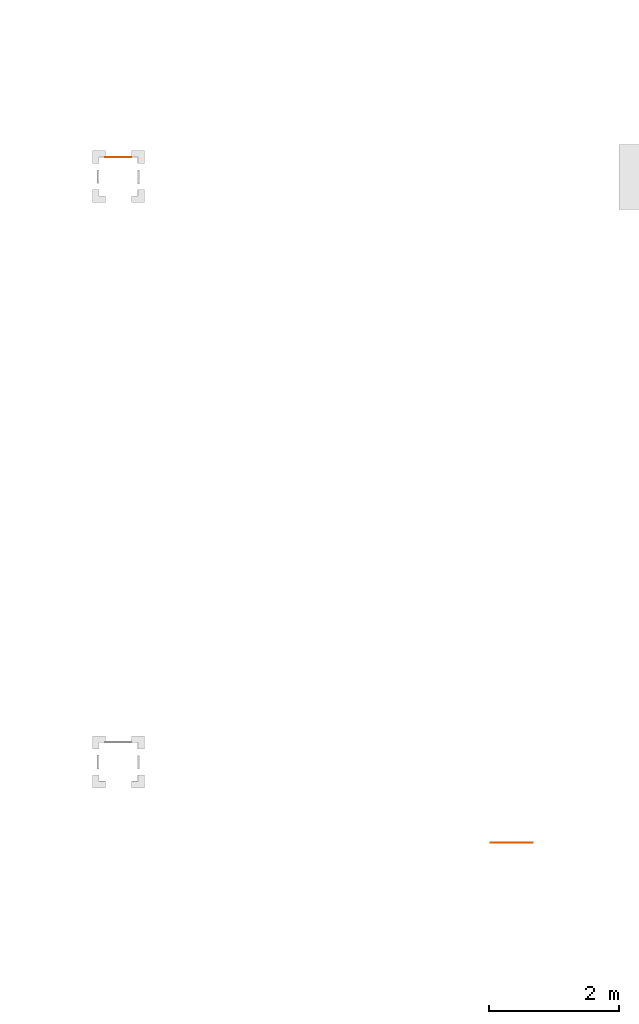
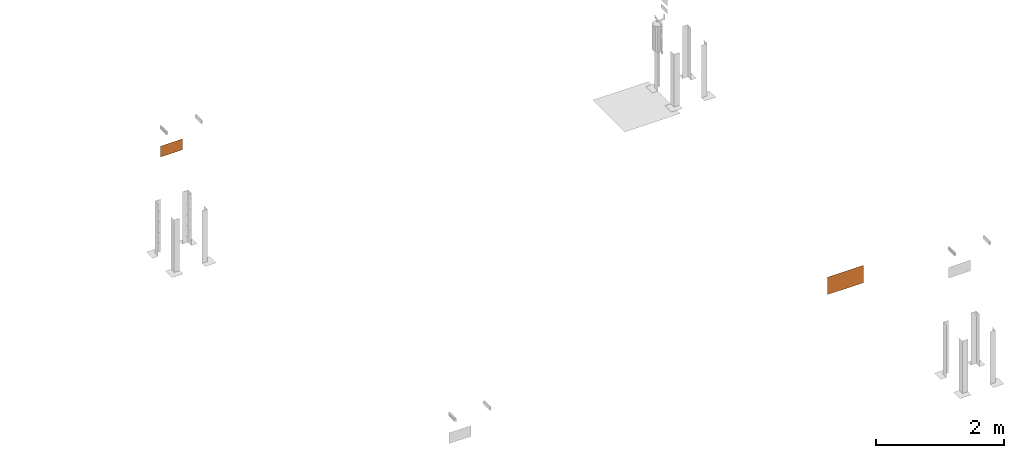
# One storey, part 60 of 119: 2 proxies.
"""IFC2X3 building model written with IfcOpenShell, lengths in metres."""

from ifc_helpers import new_model, entity, si_unit, converted_unit, derived_unit, direction, frame, frame_2d, origin, origin_2d_with_axis, place, context, subcontext, project, spatial, polyline, circle_curve, parameter, trimmed, segment, composite_curve, rectangle, outline, extrude, source, transform, mapped, material, material_list, type_object, type_shapes, element, save


model = new_model("IFC2X3")

# Units and contexts
model_context = context("Model", 3, precision=1e-05, world=origin(), true_north=direction((6.12303176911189e-17, 1.0)))
body_context = subcontext(model_context, "Body", "Model", "MODEL_VIEW")
ifc_project = project(units=[si_unit("LENGTHUNIT", "METRE"), si_unit("AREAUNIT", "SQUARE_METRE"), si_unit("VOLUMEUNIT", "CUBIC_METRE"), converted_unit("PLANEANGLEUNIT", "DEGREE", entity("IfcRatioMeasure", 0.0174532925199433), si_unit("PLANEANGLEUNIT", "RADIAN"), dimensions=[0, 0, 0, 0, 0, 0, 0]), si_unit("MASSUNIT", "GRAM", prefix="KILO"), derived_unit("MASSDENSITYUNIT", [(si_unit("MASSUNIT", "GRAM", prefix="KILO"), 1), (si_unit("LENGTHUNIT", "METRE"), -3)]), derived_unit("MOMENTOFINERTIAUNIT", [(si_unit("LENGTHUNIT", "METRE"), 4)]), si_unit("TIMEUNIT", "SECOND"), si_unit("FREQUENCYUNIT", "HERTZ"), si_unit("THERMODYNAMICTEMPERATUREUNIT", "DEGREE_CELSIUS"), derived_unit("THERMALTRANSMITTANCEUNIT", [(si_unit("MASSUNIT", "GRAM", prefix="KILO"), 1), (si_unit("THERMODYNAMICTEMPERATUREUNIT", "KELVIN"), -1), (si_unit("TIMEUNIT", "SECOND"), -3)]), derived_unit("VOLUMETRICFLOWRATEUNIT", [(si_unit("LENGTHUNIT", "METRE"), 3), (si_unit("TIMEUNIT", "SECOND"), -1)]), si_unit("ELECTRICCURRENTUNIT", "AMPERE"), si_unit("ELECTRICVOLTAGEUNIT", "VOLT"), si_unit("POWERUNIT", "WATT"), si_unit("FORCEUNIT", "NEWTON", prefix="KILO"), si_unit("ILLUMINANCEUNIT", "LUX"), si_unit("LUMINOUSFLUXUNIT", "LUMEN"), si_unit("LUMINOUSINTENSITYUNIT", "CANDELA"), derived_unit("USERDEFINED", [(si_unit("MASSUNIT", "GRAM", prefix="KILO"), -1), (si_unit("LENGTHUNIT", "METRE"), -2), (si_unit("TIMEUNIT", "SECOND"), 3), (si_unit("LUMINOUSFLUXUNIT", "LUMEN"), 1)]), derived_unit("LINEARVELOCITYUNIT", [(si_unit("LENGTHUNIT", "METRE"), 1), (si_unit("TIMEUNIT", "SECOND"), -1)]), si_unit("PRESSUREUNIT", "PASCAL"), derived_unit("USERDEFINED", [(si_unit("LENGTHUNIT", "METRE"), -2), (si_unit("MASSUNIT", "GRAM", prefix="KILO"), 1), (si_unit("TIMEUNIT", "SECOND"), -2)]), derived_unit("LINEARFORCEUNIT", [(si_unit("MASSUNIT", "GRAM", prefix="KILO"), 1), (si_unit("LENGTHUNIT", "METRE"), 1), (si_unit("TIMEUNIT", "SECOND"), -2), (si_unit("LENGTHUNIT", "METRE"), -1)]), derived_unit("PLANARFORCEUNIT", [(si_unit("MASSUNIT", "GRAM", prefix="KILO"), 1), (si_unit("LENGTHUNIT", "METRE"), 1), (si_unit("TIMEUNIT", "SECOND"), -2), (si_unit("LENGTHUNIT", "METRE"), -2)])], contexts=[model_context])

# Site, building, storey
site_placement = place(None, origin())
site = spatial("IfcSite", under=ifc_project, at=site_placement, Name="Default", CompositionType="ELEMENT")
building_placement = place(site_placement, origin())
building = spatial("IfcBuilding", under=site, at=building_placement, CompositionType="ELEMENT")
storey_placement = place(building_placement, origin())
storey = spatial("IfcBuildingStorey", under=building, at=storey_placement, Name="PAV. 01 - TÉRREO", CompositionType="ELEMENT", Elevation=0.0)

# Proxies
ifc_material_1 = material(Name="Plastico branco")
ifc_material_2 = material(Name="Plastico Verde")
ifc_material_list_1 = material_list([ifc_material_1, ifc_material_2])
building_element_proxy_type_1 = type_object("IfcBuildingElementProxyType", Name="Sinalização de orientação - S01 - Indicação do sentido da saída de emergência direita:Distância 12m", PredefinedType="NOTDEFINED", material=ifc_material_1)
shared_shape_1 = source(origin(), body_context, "Body", "SweptSolid", [
    extrude(outline(polyline([(0.0124622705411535, 0.0340163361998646), (0.0116069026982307, 0.0335634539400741), (0.0110082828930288, 0.0323153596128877), (0.0106205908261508, 0.0304379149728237), (0.0103980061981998, 0.0280969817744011), (0.0102947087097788, 0.0254584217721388), (0.0102359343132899, 0.0148408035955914), (0.0100952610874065, 0.0101688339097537), (0.00995272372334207, 0.00797089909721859), (0.00974625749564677, 0.00585117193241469), (0.00946401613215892, 0.00379928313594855), (0.00909414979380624, 0.0018048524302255), (0.00861827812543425, -0.000162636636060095), (0.00799797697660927, -0.00219550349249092), (0.00719098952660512, -0.00439788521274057), (0.00615505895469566, -0.0068739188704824), (0.00484792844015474, -0.00972774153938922), (0.00322734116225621, -0.0130634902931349), (-0.00393772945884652, -0.0270036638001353), (0.00911414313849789, -0.0269659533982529), (0.00975353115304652, -0.0269418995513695), (0.0101589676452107, -0.0269097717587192), (0.0104072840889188, -0.0268684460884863), (0.0105753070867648, -0.026816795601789), (0.0107283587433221, -0.0267465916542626), (0.0108956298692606, -0.0266273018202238), (0.0110992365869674, -0.0264240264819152), (0.0113612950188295, -0.02610186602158), (0.0117039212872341, -0.02562592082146), (0.0121492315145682, -0.0249612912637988), (0.0134363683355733, -0.022926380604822), (0.0220622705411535, -0.00866366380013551), (0.0231418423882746, -0.00739752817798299), (0.024244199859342, -0.00641124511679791), (0.0253551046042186, -0.00568750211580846), (0.026460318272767, -0.0052089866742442), (0.0275456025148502, -0.00495838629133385), (0.0285967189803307, -0.00491838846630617), (0.0295994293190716, -0.00507168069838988), (0.0305394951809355, -0.00540095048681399), (0.0314026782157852, -0.00588888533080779), (0.0321747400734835, -0.00651817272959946), (0.0328414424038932, -0.0072715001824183), (0.033388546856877, -0.00813155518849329), (0.0338018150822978, -0.00908102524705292), (0.0340670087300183, -0.0101025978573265), (0.0341698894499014, -0.0111789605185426), (0.0340962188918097, -0.0122928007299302), (0.0338317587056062, -0.0134268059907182), (0.0333622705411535, -0.0145636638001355), (0.027258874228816, -0.0250738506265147), (0.0231922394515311, -0.0317577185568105), (0.020455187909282, -0.0355759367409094), (0.0183405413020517, -0.0374891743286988), (0.0161486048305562, -0.0384492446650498), (0.0134863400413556, -0.0390450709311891), (0.0103684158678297, -0.0393831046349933), (0.00683771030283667, -0.0395364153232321), (-0.0223273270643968, -0.0395794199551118), (-0.0254276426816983, -0.0395207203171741), (-0.0281392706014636, -0.0392326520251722), (-0.0306250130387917, -0.0385308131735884), (-0.0330476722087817, -0.0372308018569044), (-0.0355700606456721, -0.0351482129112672), (-0.0383972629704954, -0.0320852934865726), (-0.0418729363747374, -0.0278005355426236), (-0.0522577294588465, -0.0145636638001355), (-0.0701177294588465, -0.0145636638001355), (-0.0701177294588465, -0.0855036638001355), (0.0426422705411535, -0.0855036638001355), (0.0426422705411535, 0.0290963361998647), (0.0481022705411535, 0.0290963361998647), (0.0680622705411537, 0.0537563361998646), (0.0426422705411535, 0.0537563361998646), (0.0426422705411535, 0.0764363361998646), (0.0551222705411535, 0.0891363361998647), (-0.0240977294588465, 0.0891363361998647), (-0.0371577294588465, 0.0764363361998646), (-0.0542977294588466, 0.0764363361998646), (-0.039344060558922, 0.0891363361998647), (-0.0579777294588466, 0.0891363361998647), (-0.0701177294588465, 0.0764363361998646), (-0.0701177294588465, -0.00182366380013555), (-0.0500921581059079, -0.00182052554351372), (-0.048376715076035, -0.00187323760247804), (-0.0469973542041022, -0.00203451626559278), (-0.0458400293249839, -0.00235707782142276), (-0.0447906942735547, -0.00289363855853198), (-0.0437353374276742, -0.0036968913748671), (-0.0425823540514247, -0.00480435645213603), (-0.0413011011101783, -0.00621227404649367), (-0.0398712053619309, -0.00790993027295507), (-0.0322577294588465, -0.0173836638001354), (-0.0217377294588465, 0.00417633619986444), (-0.0542977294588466, 0.0709363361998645), (-0.0371577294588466, 0.0709363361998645), (-0.00639772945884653, 0.0127763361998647), (-0.00393772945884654, 0.0340163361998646), (-0.00373167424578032, 0.0366224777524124), (-0.00346846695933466, 0.0389264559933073), (-0.00310194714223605, 0.0409426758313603), (-0.00258595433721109, 0.0426855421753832), (-0.00187432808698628, 0.0441694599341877), (-0.000920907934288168, 0.0454088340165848), (0.000320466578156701, 0.0464180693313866), (0.00189595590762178, 0.0472115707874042), (0.00385172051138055, 0.0478037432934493), (0.00623392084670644, 0.0482089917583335), (0.00908871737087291, 0.0484417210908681), (0.0124622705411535, 0.0485163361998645), (0.0551222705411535, 0.0485163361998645), (0.0426422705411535, 0.0340163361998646), (0.0124622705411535, 0.0340163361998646)]), holes=[composite_curve([segment(trimmed(circle_curve(frame_2d((-0.0288977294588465, -0.0559436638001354), x_axis=(-1.0, 0.0)), 0.0134), [parameter(180.0)], [parameter(360.0)], True, "PARAMETER"), False, "CONTINUOUS"), segment(trimmed(circle_curve(frame_2d((-0.0288977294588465, -0.0559436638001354), x_axis=(-1.0, 0.0)), 0.0134), [parameter(2.03555499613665e-13)], [parameter(180.0)], True, "PARAMETER"), False, "CONTINUOUS")], self_intersect=False)]), frame((-0.112957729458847, -0.00110000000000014, 1.90431633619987), z_axis=(0.0, -1.0, 0.0), x_axis=(-1.0, 0.0, 0.0)), (0.0, 0.0, -1.0), 0.0011),
    extrude(outline(polyline([(-0.102500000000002, -0.197500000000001), (0.102500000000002, -0.197500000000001), (0.102500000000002, 0.197500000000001), (-0.102500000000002, 0.197500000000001), (-0.102500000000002, -0.197500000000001)]), holes=[polyline([(-0.0950000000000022, -0.190000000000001), (-0.0950000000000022, 0.189999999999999), (0.0949999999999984, 0.189999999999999), (0.0949999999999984, -0.190000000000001), (-0.0950000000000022, -0.190000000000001)])]), frame((0.0, -0.0011, 1.9025), z_axis=(0.0, 1.0, 0.0), x_axis=(0.0, 0.0, -1.0)), (0.0, 0.0, 1.0), 0.0011),
    extrude(rectangle(XDim=0.001, YDim=0.38, at=origin_2d_with_axis()), frame((0.0, -0.0005, 1.8075), z_axis=(0.0, 0.0, 1.0), x_axis=(0.0, 1.0, 0.0)), (0.0, 0.0, 1.0), 0.190000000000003),
    extrude(outline(polyline([(-0.0165808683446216, -0.0648778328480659), (0.0648778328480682, -0.0648778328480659), (0.0648778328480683, 0.016580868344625), (0.0289709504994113, 0.0524877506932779), (0.0289709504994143, -0.00190290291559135), (-0.0467319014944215, 0.073799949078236), (-0.0737999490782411, 0.0467319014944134), (0.00190290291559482, -0.0289709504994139), (-0.0524877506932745, -0.028970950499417), (-0.0165808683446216, -0.0648778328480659)])), frame((0.0852288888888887, -0.0011, 1.9025), z_axis=(0.0, 1.0, 0.0), x_axis=(0.707106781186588, 0.0, -0.707106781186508)), (0.0, 0.0, 1.0), 0.0011),
])
type_shapes(building_element_proxy_type_1, [shared_shape_1])
proxy_1_placement = place(storey_placement, frame((37.6738357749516, 23.2286556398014, 0.0), z_axis=(0.0, 0.0, 1.0), x_axis=(-1.0, 0.0, 0.0)))
element("IfcBuildingElementProxy", 1, at=proxy_1_placement, inside=storey, type_object=building_element_proxy_type_1, material=ifc_material_list_1, Name="Sinalização de orientação - S01 - Indicação do sentido da saída de emergência direita:Distância 12m", ObjectType="Sinalização de orientação - S01 - Indicação do sentido da saída de emergência direita:Distância 12m", context=body_context, shape_type="MappedRepresentation", body=[
    mapped(shared_shape_1, transform((0.0, 0.0, 0.0), scale=1.0)),
])
ifc_material_list_2 = material_list([ifc_material_1, ifc_material_2])
building_element_proxy_type_2 = type_object("IfcBuildingElementProxyType", Name="Sinalização de orientação - S03 - Indicação de uma saída de emergência a ser afixada acima da porta:Distância 20m", PredefinedType="NOTDEFINED", material=ifc_material_1)
shared_shape_2 = source(origin(), body_context, "Body", "SweptSolid", [
    extrude(outline(polyline([(0.0207163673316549, 0.0565745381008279), (0.0192937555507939, 0.0558213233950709), (0.0182981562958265, 0.0537455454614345), (0.0176533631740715, 0.0506230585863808), (0.0172831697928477, 0.0467297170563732), (0.0171113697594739, 0.0423413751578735), (0.017013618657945, 0.0246825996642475), (0.016779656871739, 0.0169123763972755), (0.0165425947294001, 0.0132568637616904), (0.0161992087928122, 0.00973142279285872), (0.0157297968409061, 0.00631880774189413), (0.0151146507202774, 0.00300175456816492), (0.014323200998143, -0.000270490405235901), (0.0132915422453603, -0.00365146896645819), (0.0119493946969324, -0.00731437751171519), (0.0102264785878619, -0.0114324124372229), (0.00805251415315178, -0.0161787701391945), (0.00535722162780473, -0.0217266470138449), (-0.00655942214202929, -0.044911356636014), (0.0151479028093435, -0.0448486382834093), (0.0162113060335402, -0.0448086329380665), (0.0168856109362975, -0.0447551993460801), (0.0172986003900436, -0.0446864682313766), (0.0175780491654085, -0.044600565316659), (0.0178325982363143, -0.0444838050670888), (0.0181107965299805, -0.0442854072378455), (0.0184494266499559, -0.0439473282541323), (0.0188852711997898, -0.0434115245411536), (0.0194551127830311, -0.0426199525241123), (0.0201957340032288, -0.0415145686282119), (0.02233644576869, -0.0381301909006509), (0.0366826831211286, -0.0144090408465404), (0.0384781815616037, -0.0123032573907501), (0.0403115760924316, -0.0106629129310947), (0.0421591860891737, -0.00945921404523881), (0.0439973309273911, -0.00866336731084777), (0.0458023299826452, -0.00824657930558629), (0.0475505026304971, -0.00818005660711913), (0.0492181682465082, -0.00843500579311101), (0.0507816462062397, -0.00898263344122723), (0.0522172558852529, -0.00979414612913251), (0.053501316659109, -0.0108407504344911), (0.0546101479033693, -0.0120936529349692), (0.0555200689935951, -0.0135240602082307), (0.0562073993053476, -0.0151031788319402), (0.056648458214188, -0.0168022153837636), (0.0568195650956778, -0.0185923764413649), (0.056697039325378, -0.0204448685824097), (0.0562572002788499, -0.0223308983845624), (0.0554763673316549, -0.024221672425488), (0.045325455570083, -0.0417017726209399), (0.0385619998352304, -0.0528181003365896), (0.0340098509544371, -0.0591684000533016), (0.0304928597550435, -0.0623504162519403), (0.0268473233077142, -0.0639471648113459), (0.0224195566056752, -0.0649381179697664), (0.0172339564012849, -0.0655003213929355), (0.0113618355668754, -0.0657553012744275), (-0.037144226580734, -0.0658268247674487), (-0.0423005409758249, -0.065729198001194), (-0.0468104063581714, -0.0652500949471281), (-0.0509445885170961, -0.0640828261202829), (-0.0549738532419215, -0.0619207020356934), (-0.0591689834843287, -0.058457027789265), (-0.0638710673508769, -0.0533629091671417), (-0.0696516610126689, -0.046236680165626), (-0.0869232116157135, -0.024221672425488), (-0.116627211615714, -0.024221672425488), (-0.116627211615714, -0.142206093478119), (0.0709104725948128, -0.142206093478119), (0.0709104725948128, 0.0483918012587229), (0.0799913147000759, 0.0483918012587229), (0.113187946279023, 0.0894052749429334), (0.0709104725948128, 0.0894052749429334), (0.0709104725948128, 0.127125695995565), (0.0916666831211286, 0.148247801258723), (-0.0400886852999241, 0.148247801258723), (-0.0618095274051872, 0.127125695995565), (-0.0903160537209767, 0.127125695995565), (-0.0639958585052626, 0.148247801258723), (-0.0964364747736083, 0.148247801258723), (-0.116627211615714, 0.127125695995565), (-0.116627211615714, -0.00303304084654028), (-0.0833215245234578, -0.00302782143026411), (-0.0804684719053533, -0.00311548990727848), (-0.0781743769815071, -0.00338372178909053), (-0.0762495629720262, -0.00392019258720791), (-0.0745043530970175, -0.00481257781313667), (-0.0727491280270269, -0.00614851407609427), (-0.0708315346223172, -0.00799040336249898), (-0.0687006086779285, -0.0103319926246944), (-0.0663224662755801, -0.013155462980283), (-0.0536600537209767, -0.0289117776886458), (-0.0361636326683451, 0.00694590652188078), (-0.0903160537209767, 0.117978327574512), (-0.0618095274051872, 0.117978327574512), (-0.0106507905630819, 0.0212490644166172), (-0.00655942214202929, 0.0565745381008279), (-0.00621671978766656, 0.0609089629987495), (-0.00577896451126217, 0.0647408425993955), (-0.00516938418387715, 0.068094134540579), (-0.00431120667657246, 0.0709927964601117), (-0.00312765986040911, 0.0734607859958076), (-0.00154197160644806, 0.0755220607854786), (0.000522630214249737, 0.077200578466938), (0.00314291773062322, 0.078520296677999), (0.00639566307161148, 0.0795051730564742), (0.0103576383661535, 0.0801791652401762), (0.0151056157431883, 0.0805662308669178), (0.0207163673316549, 0.080690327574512), (0.0916666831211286, 0.080690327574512), (0.0709104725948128, 0.0565745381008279), (0.0207163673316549, 0.0565745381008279)]), holes=[composite_curve([segment(trimmed(circle_curve(frame_2d((-0.0480718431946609, -0.0930431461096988), x_axis=(-1.0, 0.0)), 0.0222863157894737), [parameter(180.0)], [parameter(0.0)], True, "PARAMETER"), False, "CONTINUOUS"), segment(trimmed(circle_curve(frame_2d((-0.0480718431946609, -0.0930431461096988), x_axis=(-1.0, 0.0)), 0.0222863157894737), [parameter(3.56222124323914e-13)], [parameter(180.0)], True, "PARAMETER"), False, "CONTINUOUS")], self_intersect=False)]), frame((-0.186380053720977, -0.00109999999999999, 3.6685208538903), z_axis=(0.0, -1.0, 0.0), x_axis=(-1.0, 0.0, 0.0)), (0.0, 0.0, -1.0), 0.0011),
    extrude(outline(polyline([(-0.107598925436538, -0.107598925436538), (0.0278797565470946, -0.107598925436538), (0.0875985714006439, -0.0478801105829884), (-0.00286167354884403, -0.0478801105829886), (0.121679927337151, 0.0766614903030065), (0.0766614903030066, 0.121679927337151), (-0.0478801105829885, -0.00286167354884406), (-0.0478801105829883, 0.0875985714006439), (-0.107598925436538, 0.0278797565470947), (-0.107598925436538, -0.107598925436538)])), frame((0.122741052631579, -0.0011, 3.66052161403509), z_axis=(0.0, 1.0, 0.0), x_axis=(0.707106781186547, 0.0, -0.707106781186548)), (0.0, 0.0, 1.0), 0.0011),
    extrude(rectangle(XDim=0.001, YDim=0.632, at=origin_2d_with_axis()), frame((0.0, -0.0005, 3.5075), z_axis=(0.0, 0.0, 1.0), x_axis=(0.0, 1.0, 0.0)), (0.0, 0.0, 1.0), 0.315999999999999),
    extrude(outline(polyline([(-0.1655, -0.3235), (0.1655, -0.3235), (0.1655, 0.3235), (-0.1655, 0.3235), (-0.1655, -0.3235)]), holes=[polyline([(-0.157999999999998, -0.316000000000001), (-0.157999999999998, 0.315999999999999), (0.158, 0.315999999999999), (0.158, -0.316000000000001), (-0.157999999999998, -0.316000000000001)])]), frame((0.0, -0.001, 3.6655), z_axis=(0.0, 1.0, 0.0), x_axis=(0.0, 0.0, -1.0)), (0.0, 0.0, 1.0), 0.001),
])
type_shapes(building_element_proxy_type_2, [shared_shape_2])
proxy_2_placement = place(storey_placement, frame((43.7240605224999, 12.6833819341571, 0.0), z_axis=(0.0, 0.0, 1.0), x_axis=(-1.0, 0.0, 0.0)))
element("IfcBuildingElementProxy", 2, at=proxy_2_placement, inside=storey, type_object=building_element_proxy_type_2, material=ifc_material_list_2, Name="Sinalização de orientação - S03 - Indicação de uma saída de emergência a ser afixada acima da porta:Distância 20m", ObjectType="Sinalização de orientação - S03 - Indicação de uma saída de emergência a ser afixada acima da porta:Distância 20m", context=body_context, shape_type="MappedRepresentation", body=[
    mapped(shared_shape_2, transform((0.0, 0.0, 0.0), scale=1.0)),
])

save(model, "model.ifc")
